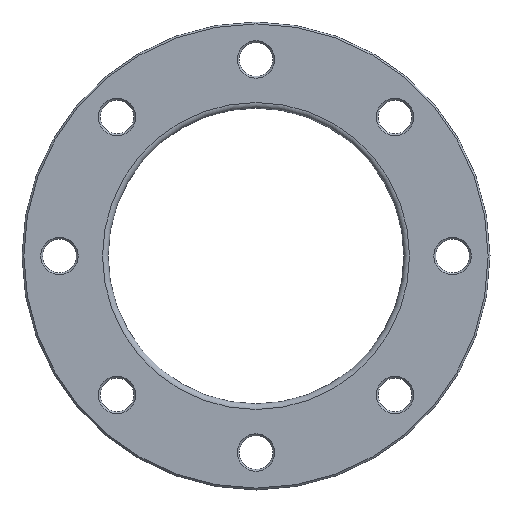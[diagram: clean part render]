
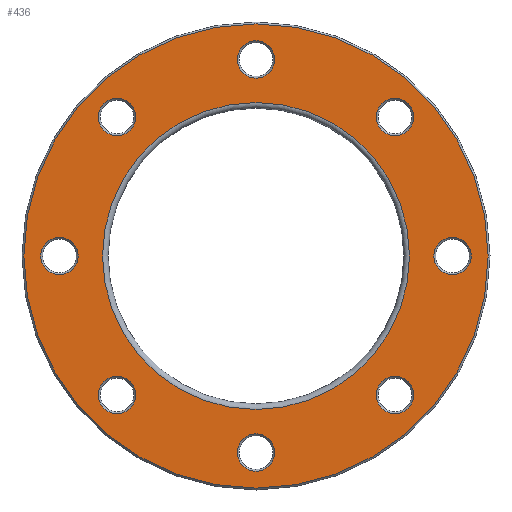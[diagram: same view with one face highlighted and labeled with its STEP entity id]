
A CAD part, front view. The second image highlights one B-rep face of the part: STEP entity #436.
In plain terms, the highlighted planar face has unit normal (0, -1, 0).
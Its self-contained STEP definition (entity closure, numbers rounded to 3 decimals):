
#23=PLANE('',#516);
#98=ORIENTED_EDGE('',*,*,#157,.T.);
#99=ORIENTED_EDGE('',*,*,#158,.T.);
#100=ORIENTED_EDGE('',*,*,#124,.T.);
#101=ORIENTED_EDGE('',*,*,#128,.T.);
#102=ORIENTED_EDGE('',*,*,#132,.T.);
#103=ORIENTED_EDGE('',*,*,#136,.T.);
#104=ORIENTED_EDGE('',*,*,#140,.T.);
#105=ORIENTED_EDGE('',*,*,#144,.T.);
#106=ORIENTED_EDGE('',*,*,#148,.T.);
#107=ORIENTED_EDGE('',*,*,#159,.T.);
#124=EDGE_CURVE('',#164,#164,#204,.T.);
#128=EDGE_CURVE('',#168,#168,#208,.T.);
#132=EDGE_CURVE('',#172,#172,#212,.T.);
#136=EDGE_CURVE('',#176,#176,#216,.T.);
#140=EDGE_CURVE('',#180,#180,#220,.T.);
#144=EDGE_CURVE('',#184,#184,#224,.T.);
#148=EDGE_CURVE('',#188,#188,#228,.T.);
#157=EDGE_CURVE('',#197,#197,#237,.F.);
#158=EDGE_CURVE('',#198,#198,#238,.T.);
#159=EDGE_CURVE('',#199,#199,#239,.T.);
#164=VERTEX_POINT('',#683);
#168=VERTEX_POINT('',#694);
#172=VERTEX_POINT('',#705);
#176=VERTEX_POINT('',#716);
#180=VERTEX_POINT('',#727);
#184=VERTEX_POINT('',#738);
#188=VERTEX_POINT('',#749);
#197=VERTEX_POINT('',#772);
#198=VERTEX_POINT('',#774);
#199=VERTEX_POINT('',#776);
#204=CIRCLE('',#461,10.);
#208=CIRCLE('',#468,10.);
#212=CIRCLE('',#475,10.);
#216=CIRCLE('',#482,10.);
#220=CIRCLE('',#489,10.);
#224=CIRCLE('',#496,10.);
#228=CIRCLE('',#503,10.);
#237=CIRCLE('',#517,124.);
#238=CIRCLE('',#518,82.);
#239=CIRCLE('',#519,10.);
#298=EDGE_LOOP('',(#98));
#299=EDGE_LOOP('',(#99));
#300=EDGE_LOOP('',(#100));
#301=EDGE_LOOP('',(#101));
#302=EDGE_LOOP('',(#102));
#303=EDGE_LOOP('',(#103));
#304=EDGE_LOOP('',(#104));
#305=EDGE_LOOP('',(#105));
#306=EDGE_LOOP('',(#106));
#307=EDGE_LOOP('',(#107));
#378=FACE_BOUND('',#298,.T.);
#379=FACE_BOUND('',#299,.T.);
#380=FACE_BOUND('',#300,.T.);
#381=FACE_BOUND('',#301,.T.);
#382=FACE_BOUND('',#302,.T.);
#383=FACE_BOUND('',#303,.T.);
#384=FACE_BOUND('',#304,.T.);
#385=FACE_BOUND('',#305,.T.);
#386=FACE_BOUND('',#306,.T.);
#387=FACE_BOUND('',#307,.T.);
#436=ADVANCED_FACE('',(#378,#379,#380,#381,#382,#383,#384,#385,#386,#387),
#23,.F.);
#461=AXIS2_PLACEMENT_3D('',#682,#539,#540);
#468=AXIS2_PLACEMENT_3D('',#693,#553,#554);
#475=AXIS2_PLACEMENT_3D('',#704,#567,#568);
#482=AXIS2_PLACEMENT_3D('',#715,#581,#582);
#489=AXIS2_PLACEMENT_3D('',#726,#595,#596);
#496=AXIS2_PLACEMENT_3D('',#737,#609,#610);
#503=AXIS2_PLACEMENT_3D('',#748,#623,#624);
#516=AXIS2_PLACEMENT_3D('',#770,#649,#650);
#517=AXIS2_PLACEMENT_3D('',#771,#651,#652);
#518=AXIS2_PLACEMENT_3D('',#773,#653,#654);
#519=AXIS2_PLACEMENT_3D('',#775,#655,#656);
#539=DIRECTION('',(0.,1.,0.));
#540=DIRECTION('',(0.707,0.,0.707));
#553=DIRECTION('',(0.,1.,0.));
#554=DIRECTION('',(0.,0.,1.));
#567=DIRECTION('',(0.,1.,0.));
#568=DIRECTION('',(-0.707,0.,0.707));
#581=DIRECTION('',(0.,1.,0.));
#582=DIRECTION('',(-1.,0.,0.));
#595=DIRECTION('',(0.,1.,0.));
#596=DIRECTION('',(-0.707,0.,-0.707));
#609=DIRECTION('',(0.,1.,0.));
#610=DIRECTION('',(0.,0.,-1.));
#623=DIRECTION('',(0.,1.,0.));
#624=DIRECTION('',(0.707,0.,-0.707));
#649=DIRECTION('',(0.,1.,0.));
#650=DIRECTION('',(0.,0.,1.));
#651=DIRECTION('',(0.,1.,0.));
#652=DIRECTION('',(0.,0.,1.));
#653=DIRECTION('',(0.,1.,0.));
#654=DIRECTION('',(0.,0.,1.));
#655=DIRECTION('',(0.,1.,0.));
#656=DIRECTION('',(1.,0.,0.));
#682=CARTESIAN_POINT('',(-74.246,0.,74.246));
#683=CARTESIAN_POINT('',(-67.175,0.,81.317));
#693=CARTESIAN_POINT('',(-105.,0.,0.));
#694=CARTESIAN_POINT('',(-105.,0.,10.));
#704=CARTESIAN_POINT('',(-74.246,0.,-74.246));
#705=CARTESIAN_POINT('',(-81.317,0.,-67.175));
#715=CARTESIAN_POINT('',(0.,0.,-105.));
#716=CARTESIAN_POINT('',(-10.,0.,-105.));
#726=CARTESIAN_POINT('',(74.246,0.,-74.246));
#727=CARTESIAN_POINT('',(67.175,0.,-81.317));
#737=CARTESIAN_POINT('',(105.,0.,0.));
#738=CARTESIAN_POINT('',(105.,0.,-10.));
#748=CARTESIAN_POINT('',(74.246,0.,74.246));
#749=CARTESIAN_POINT('',(81.317,0.,67.175));
#770=CARTESIAN_POINT('',(0.,0.,0.));
#771=CARTESIAN_POINT('',(0.,0.,0.));
#772=CARTESIAN_POINT('',(0.,0.,124.));
#773=CARTESIAN_POINT('',(0.,0.,0.));
#774=CARTESIAN_POINT('',(0.,0.,82.));
#775=CARTESIAN_POINT('',(0.,0.,105.));
#776=CARTESIAN_POINT('',(10.,0.,105.));
